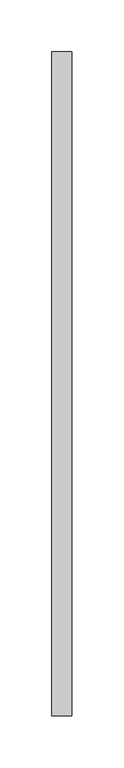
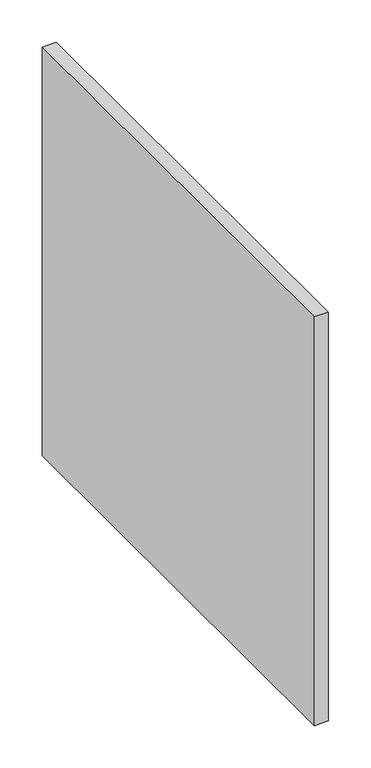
"""IFC4 building model written with IfcOpenShell, lengths in millimetres: proxy geometry, BASYS^CREDENZA 1_INTERNAL DETAILS-CTR PART."""

from ifc_helpers import new_model, si_unit, frame, origin, place, context, project, spatial, polyline, outline, extrude, source, transform, mapped, element, save


def generic_models_a6ef1975(model_context):
    return source(origin(), model_context, "Body", "SweptSolid", [
        extrude(outline(polyline([(1228.725, -668.5), (1209.675, -668.5), (1209.675, -28.575), (1228.725, -28.575), (1228.725, -668.5)])), frame((0.0, 0.0, -615.95), z_axis=(0.0, 0.0, 1.0), x_axis=(1.0, 0.0, 0.0)), (0.0, 0.0, 1.0), 587.375),
    ])


if __name__ == "__main__":
    model = new_model("IFC4")
    model_context = context("Model", 3, world=origin())
    ifc_project = project(units=[si_unit("LENGTHUNIT", "METRE", prefix="MILLI")], contexts=[model_context])
    site = spatial("IfcSite", under=ifc_project)
    building = spatial("IfcBuilding", under=site)
    placement = place(None, origin())
    generic_models_shape = generic_models_a6ef1975(model_context)
    element("IfcBuildingElementProxy", 1, Name="BASYS^CREDENZA 1_INTERNAL DETAILS-CTR PART", ObjectType="BASYS^CREDENZA 1_INTERNAL DETAILS-CTR PART", at=placement, inside=building, context=model_context, shape_type="MappedRepresentation", body=[
        mapped(generic_models_shape, transform((0.0, 0.0, 0.0), x_axis=(1.0, 0.0, 0.0), y_axis=(0.0, 1.0, 0.0), z_axis=(0.0, 0.0, 1.0))),
    ])
    save(model, "model.ifc")
